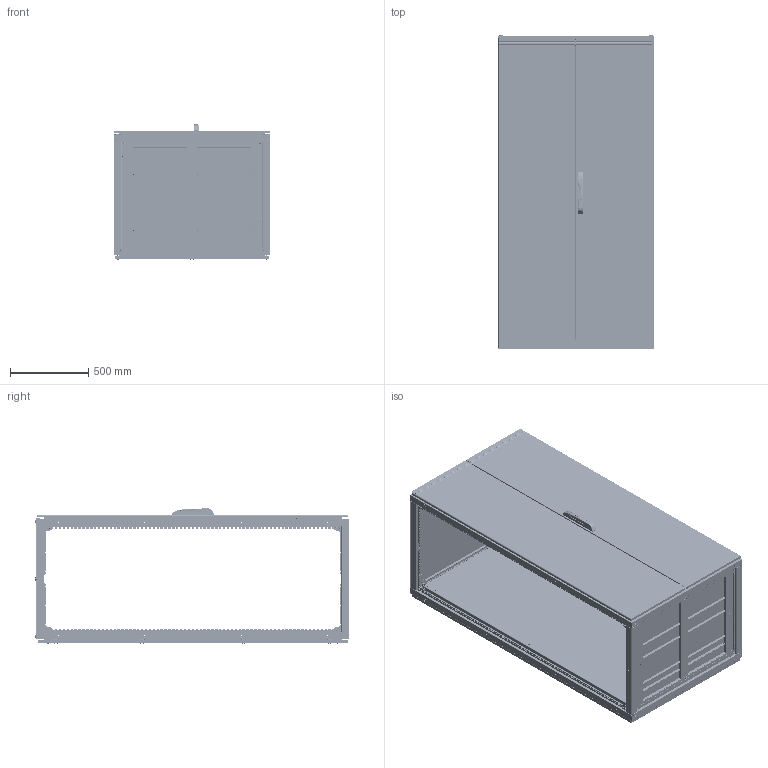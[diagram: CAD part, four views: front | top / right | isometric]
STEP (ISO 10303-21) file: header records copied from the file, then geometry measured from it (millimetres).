
FILE_DESCRIPTION (( 'STEP AP214' ), '1' );
FILE_NAME ('N201008D- 2000 H X 1000 W X 800 D - NEO MODULAR.STEP', '2026-10-01T07:46:55', ( '' ), ( '' ), 'SwSTEP 2.0', 'SolidWorks 2025', '' );
FILE_SCHEMA (( 'AUTOMOTIVE_DESIGN' ));
Length unit declared in the file: millimetre
Products named in the file (114): N201008D- 2000 H X 1000 W X 800 D - NEO MODULAR; MP 11.0195 Mounting Plate M8 Wedge; arka kapak orta çektirme NEO A2-REVİZE 1; socket button head screw_iso_ISO 7380 - M12 x 30 - 30C; NEO Base depth Part_PP 16.0097 800; MP 11.0188 Support Part ans Locking; Rod Models_1800 çift kapı; Vertical Profile NEO26-12_PP 16.0014 H 2000; adaptor for zamak panel; Rear Panel Sheet - Neo_PP 16.0050 1000x2000; 8510_1_1; Top Cover  3mm Stopper; YP1189-2-M6_1_1me; NEO Modular Frame Assembly_1000x2000x800; Lock mounting part; Depth Part VER3 NEO26-12_PP 16.0018   800; F║ºE KAPAMA_; pan head cross recess screw_iso89_ISO 7045 - M5 x 10 - Z --- 10C; square washer nut VER3 NEO26-12; HO 2000 019CK_1__1_1; Carriage  Nut  VER3 NEO26-12_25x25; M6 KAFES SOMUN; YZE069T__1_1; YM 1473; NEO Mounting plate sled_PP 16.1239-800; M8 Kare Somun_m8; Front Slat_1000 sol; NEO Modular Depth_800; Top WidthVER3 NEO26-19_PP 16.0008 1000 GEN.ÜST; YZE124TKK_1__1_1; 4,6 Diameter plug; Teos-Neo Mounting Plate Left Bracket Mounting_Standart Pozisyon; BOYUNA DELIKLI PROFILVER3 NEO26-12me_2000; epdm gasketVER3 NEO26-12; TEOS-NEO MP Left Support Plastic Wedge; lande plastic panel_1_1; A910 3126 330; 03taban derinlik orta  percinli 04-2012_PP 16.0120 -800; Lock Hinge_1800-Cift; MP 0701.0050 M8 Rivetnut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
Assembly tree (341 placements, depth 5):
  N201008D- 2000 H X 1000 W X 800 D - NEO MODULAR
    NEO Modular Frame Assembly_1000x2000x800
      Frame 2015VER3 NEO26-12_1000x2000  x2
        Vertical Profile NEO26-12_PP 16.0014 H 2000
        Top WidthVER3 NEO26-19_PP 16.0008 1000 GEN.ÜST
        Top WidthVER3 NEO26-19_PP 16.0007 1000 GEN.ALT
        Carriage  Nut  VER3 NEO26-12_25x25
        hex nut heavy_am_B18.2.4.6M - Heavy hex nut,  M12 x 1.75 --W-N
        MP 0701.0050 M8 Rivetnut
      NEO Modular Depth_800  x4
        Depth Part VER3 NEO26-12_PP 16.0018   800
        Depth Inner Corner VER3 NEO26-12_PP 16.0024 800 D İÇ
        epdm gasketVER3 NEO26-12
        square washer nut VER3 NEO26-12
        square washer NEO26-12
        socket head cap screw_am_B18.3.1M - 8 x 1.25 x 20 Hex SHCS -- 20NHX
        curved spring lock washer_din_Spring washer DIN 128 - A8
        4X8 Rivet
        4X8 Rivet_4X8
      TEOS-NEO Base sheet metal parts_1000x800  x2
        03-Base Sheet U1 04-2012VER3 NEO26-12_PP 12.0042 - 1000-75
        Base sheet slide part_PP 12.0032 - 1000
        03-Base Sheet U1 04-2012VER3 NEO26-12_PP 12.0037 - 1000-200
      NEO Base Width Part_PP 16.0101 1000 GENİŞLİK  x2
      pan head cross recess screw_iso121_ISO 7045 - M3 x 20 - Z --- 20N  x20
      NEO Base depth Part_PP 16.0097 800  x2
      03taban derinlik orta  percinli 04-2012_PP 16.0120 -800
      NEO Mounting plate sled_PP 16.1239-800  x2
      4,6 Diameter plug  x2
    NEO Modular Rear Panel_1000x2000
      Rear Panel Sheet - Neo_PP 16.0050 1000x2000
      arka kapak orta çektirme NEO A2-REVİZE 1  x2
      pan head cross recess screw_iso121_ISO 7045 - M3 x 20 - Z --- 20N  x20
      MP 14.0007 M6 Plastic Countersink  x10
      countersunk flat head cross recess screw_iso_ISO 7046-1 - M6 x 25 - Z --- 25C  x10
      M6 KAFES SOMUN  x2
        M6 Somun Kafesi
        M6 Kare Somun
      ARKA KAPAK BRAKETVER3 NEO26-12  x8
    NEO Modular Top Cover_1000x800
      Top Cover Sheet_PP 16.0070 1000X800 UST KAPAK
      countersunk flat head cross recess screw_iso_ISO 7046-1 - M6 x 25 - Z --- 25C  x2
      MP 14.0007 M6 Plastic Countersink  x2
      plain washer normal grade a_iso_Washer ISO 7089 - 12  x4
      socket button head screw_iso_ISO 7380 - M12 x 30 - 30C  x4
      Top Cover  3mm Stopper  x4
    NEO Right Front Door_1000x2000
      Right Door Sheet 2 mm_PP 16.0091 1000X2000 SAĞ
      Front Slat_1000 sağ
      Profile Frame with hole Neo_1000x2000
        ENINE DELIKLI PROFILVER3 NEO26-12me_1000  x2
        BOYUNA DELIKLI PROFILVER3 NEO26-12me_2000  x2
        22032010-PLASTIK KOSE50x40VER3 NEO26-12me  x4
      Lock Hinge_1800-Cift
        2751_1_1_schrack
          MSBR-7_1__1_1
          YZE124TKK_1__1_1
          F║ºE G=VDE_
          F║ºE KAPAMA_
          F║ºE KAPAK_
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Bounding box: 1000.1 x 2014.6 x 864.99 mm (x, y, z)
Volume: 20962614.1 mm3; surface area: 24953255.5 mm2
Topology: 425 solids, 425 shells, 34683 faces, 92950 edges, 58790 vertices
Faces by surface type: plane 17960, cylinder 12304, cone 1908, torus 1142, bspline 1016, sphere 353
Entity records: 408071 total; most frequent: CARTESIAN_POINT 116454, ORIENTED_EDGE 61554, DIRECTION 56882, EDGE_CURVE 30777, VERTEX_POINT 19650, AXIS2_PLACEMENT_3D 19375, VECTOR 18132, LINE 18132
